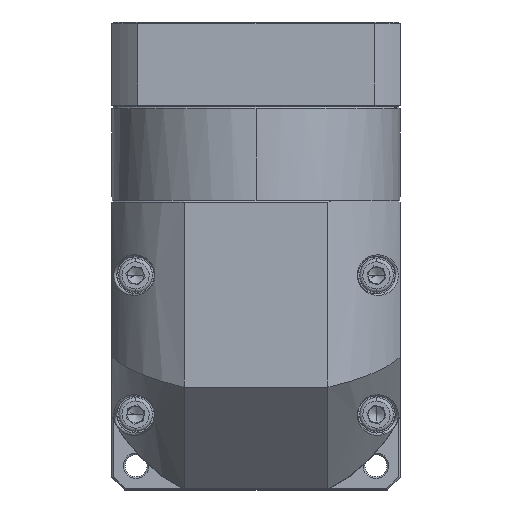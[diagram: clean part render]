
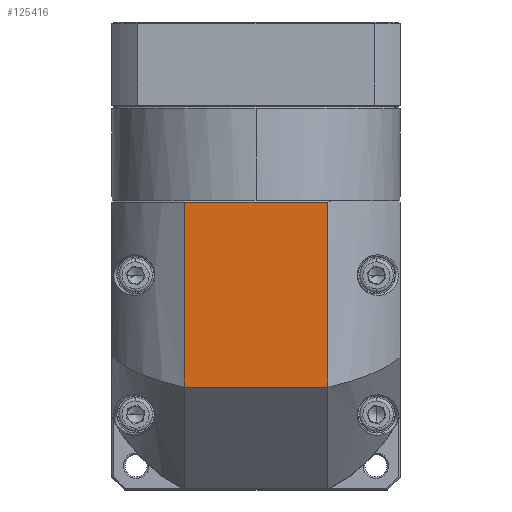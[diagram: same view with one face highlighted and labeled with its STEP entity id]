
A CAD part, top view. The second image highlights one B-rep face of the part: STEP entity #125416.
In plain terms, the highlighted planar face has unit normal (0, 0, 1).
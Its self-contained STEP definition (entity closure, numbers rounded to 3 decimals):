
#469 = DIRECTION ( 'NONE',  ( 0., -1., 0. ) ) ;
#12728 = VECTOR ( 'NONE', #92725, 1000. ) ;
#15325 = DIRECTION ( 'NONE',  ( -1., 0., 0. ) ) ;
#15541 = ORIENTED_EDGE ( 'NONE', *, *, #110763, .T. ) ;
#15908 = EDGE_LOOP ( 'NONE', ( #57413, #102972, #17138, #15541 ) ) ;
#17138 = ORIENTED_EDGE ( 'NONE', *, *, #86527, .F. ) ;
#26150 = VECTOR ( 'NONE', #15325, 1000. ) ;
#29125 = EDGE_CURVE ( 'NONE', #37362, #120789, #130388, .T. ) ;
#37362 = VERTEX_POINT ( 'NONE', #88144 ) ;
#37557 = VECTOR ( 'NONE', #68574, 1000. ) ;
#47425 = CARTESIAN_POINT ( 'NONE',  ( -45.63, 28.953, 64.534 ) ) ;
#49715 = CARTESIAN_POINT ( 'NONE',  ( -24.417, 70.953, 64.534 ) ) ;
#50651 = CARTESIAN_POINT ( 'NONE',  ( -66.843, -29.047, 64.534 ) ) ;
#57413 = ORIENTED_EDGE ( 'NONE', *, *, #57845, .F. ) ;
#57839 = CARTESIAN_POINT ( 'NONE',  ( -45.63, 70.953, 64.534 ) ) ;
#57845 = EDGE_CURVE ( 'NONE', #120789, #74336, #75646, .T. ) ;
#68574 = DIRECTION ( 'NONE',  ( -1., 0., 0. ) ) ;
#72998 = AXIS2_PLACEMENT_3D ( 'NONE', #47425, #101495, #80793 ) ;
#74336 = VERTEX_POINT ( 'NONE', #124164 ) ;
#74919 = CARTESIAN_POINT ( 'NONE',  ( -24.417, -29.047, 64.534 ) ) ;
#75646 = LINE ( 'NONE', #50651, #12728 ) ;
#80793 = DIRECTION ( 'NONE',  ( 0., 1., 0. ) ) ;
#86527 = EDGE_CURVE ( 'NONE', #128911, #37362, #90331, .T. ) ;
#88144 = CARTESIAN_POINT ( 'NONE',  ( -24.417, 16.453, 64.534 ) ) ;
#90021 = PLANE ( 'NONE',  #72998 ) ;
#90331 = LINE ( 'NONE', #74919, #105143 ) ;
#92725 = DIRECTION ( 'NONE',  ( 0., 1., 0. ) ) ;
#99466 = CARTESIAN_POINT ( 'NONE',  ( -45.63, 16.453, 64.534 ) ) ;
#100451 = LINE ( 'NONE', #57839, #37557 ) ;
#101495 = DIRECTION ( 'NONE',  ( 0., 0., 1. ) ) ;
#102972 = ORIENTED_EDGE ( 'NONE', *, *, #29125, .F. ) ;
#105143 = VECTOR ( 'NONE', #469, 1000. ) ;
#109001 = CARTESIAN_POINT ( 'NONE',  ( -66.843, 16.453, 64.534 ) ) ;
#110763 = EDGE_CURVE ( 'NONE', #128911, #74336, #100451, .T. ) ;
#120789 = VERTEX_POINT ( 'NONE', #109001 ) ;
#123351 = FACE_OUTER_BOUND ( 'NONE', #15908, .T. ) ;
#124164 = CARTESIAN_POINT ( 'NONE',  ( -66.843, 70.953, 64.534 ) ) ;
#125416 = ADVANCED_FACE ( 'NONE', ( #123351 ), #90021, .T. ) ;
#128911 = VERTEX_POINT ( 'NONE', #49715 ) ;
#130388 = LINE ( 'NONE', #99466, #26150 ) ;
